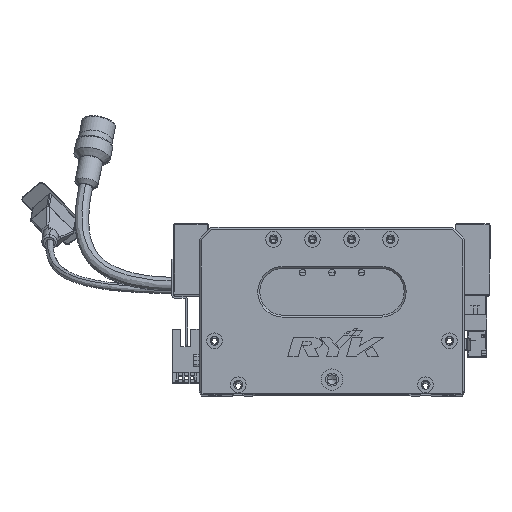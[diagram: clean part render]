
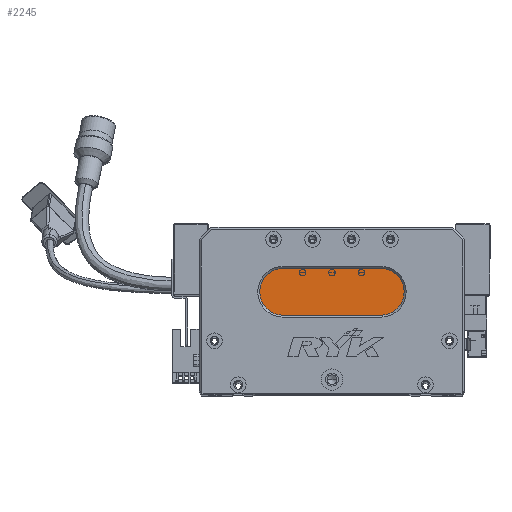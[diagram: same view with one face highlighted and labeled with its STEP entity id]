
A CAD part, top view. The second image highlights one B-rep face of the part: STEP entity #2245.
In plain terms, the highlighted planar face has unit normal (0, 0, 1) as drawn and (0, 0, -1) by its records, which use the part's own axes.
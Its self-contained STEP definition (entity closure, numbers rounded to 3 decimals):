
#1040 = EDGE_CURVE ( 'NONE', #70611, #31719, #51361, .T. ) ;
#1486 = ORIENTED_EDGE ( 'NONE', *, *, #1040, .T. ) ;
#2039 = VERTEX_POINT ( 'NONE', #43263 ) ;
#2227 = AXIS2_PLACEMENT_3D ( 'NONE', #44231, #45467, #58429 ) ;
#2245 = ADVANCED_FACE ( 'NONE', ( #13039 ), #56418, .T. ) ;
#3877 = VERTEX_POINT ( 'NONE', #54383 ) ;
#7266 = CARTESIAN_POINT ( 'NONE',  ( 43., 52., 13. ) ) ;
#7503 = DIRECTION ( 'NONE',  ( -1., 0., 0. ) ) ;
#9738 = CIRCLE ( 'NONE', #40627, 12. ) ;
#10853 = EDGE_CURVE ( 'NONE', #3877, #70611, #57754, .T. ) ;
#11703 = EDGE_LOOP ( 'NONE', ( #64123, #1486, #30402, #31710, #53931 ) ) ;
#13039 = FACE_OUTER_BOUND ( 'NONE', #11703, .T. ) ;
#13249 = VECTOR ( 'NONE', #73634, 1000. ) ;
#16190 = CARTESIAN_POINT ( 'NONE',  ( 43., 40., 13. ) ) ;
#18486 = DIRECTION ( 'NONE',  ( -1., 0., 0. ) ) ;
#19513 = EDGE_CURVE ( 'NONE', #53737, #3877, #57799, .T. ) ;
#30142 = CARTESIAN_POINT ( 'NONE',  ( 93., 52., 13. ) ) ;
#30402 = ORIENTED_EDGE ( 'NONE', *, *, #38009, .T. ) ;
#31710 = ORIENTED_EDGE ( 'NONE', *, *, #43517, .T. ) ;
#31719 = VERTEX_POINT ( 'NONE', #16190 ) ;
#32229 = AXIS2_PLACEMENT_3D ( 'NONE', #30142, #58411, #18486 ) ;
#34553 = CARTESIAN_POINT ( 'NONE',  ( 93., 64., 13. ) ) ;
#38009 = EDGE_CURVE ( 'NONE', #31719, #2039, #9738, .T. ) ;
#40627 = AXIS2_PLACEMENT_3D ( 'NONE', #72732, #44497, #43016 ) ;
#43016 = DIRECTION ( 'NONE',  ( -1., 0., 0. ) ) ;
#43263 = CARTESIAN_POINT ( 'NONE',  ( 31., 52., 13. ) ) ;
#43517 = EDGE_CURVE ( 'NONE', #2039, #53737, #73349, .T. ) ;
#44231 = CARTESIAN_POINT ( 'NONE',  ( 93., 52., 13. ) ) ;
#44497 = DIRECTION ( 'NONE',  ( 0., 0., -1. ) ) ;
#45467 = DIRECTION ( 'NONE',  ( 0., 0., -1. ) ) ;
#47135 = DIRECTION ( 'NONE',  ( 0., 0., -1. ) ) ;
#51361 = LINE ( 'NONE', #54859, #13249 ) ;
#52382 = VECTOR ( 'NONE', #57343, 1000. ) ;
#53737 = VERTEX_POINT ( 'NONE', #57033 ) ;
#53931 = ORIENTED_EDGE ( 'NONE', *, *, #19513, .T. ) ;
#54383 = CARTESIAN_POINT ( 'NONE',  ( 93., 64., 13. ) ) ;
#54859 = CARTESIAN_POINT ( 'NONE',  ( 93., 40., 13. ) ) ;
#56418 = PLANE ( 'NONE',  #2227 ) ;
#57033 = CARTESIAN_POINT ( 'NONE',  ( 43., 64., 13. ) ) ;
#57343 = DIRECTION ( 'NONE',  ( 1., 0., 0. ) ) ;
#57754 = CIRCLE ( 'NONE', #32229, 12. ) ;
#57799 = LINE ( 'NONE', #34553, #52382 ) ;
#58411 = DIRECTION ( 'NONE',  ( 0., 0., -1. ) ) ;
#58429 = DIRECTION ( 'NONE',  ( -1., 0., 0. ) ) ;
#64123 = ORIENTED_EDGE ( 'NONE', *, *, #10853, .T. ) ;
#64353 = CARTESIAN_POINT ( 'NONE',  ( 93., 40., 13. ) ) ;
#67119 = AXIS2_PLACEMENT_3D ( 'NONE', #7266, #47135, #7503 ) ;
#70611 = VERTEX_POINT ( 'NONE', #64353 ) ;
#72732 = CARTESIAN_POINT ( 'NONE',  ( 43., 52., 13. ) ) ;
#73349 = CIRCLE ( 'NONE', #67119, 12. ) ;
#73634 = DIRECTION ( 'NONE',  ( -1., 0., 0. ) ) ;
